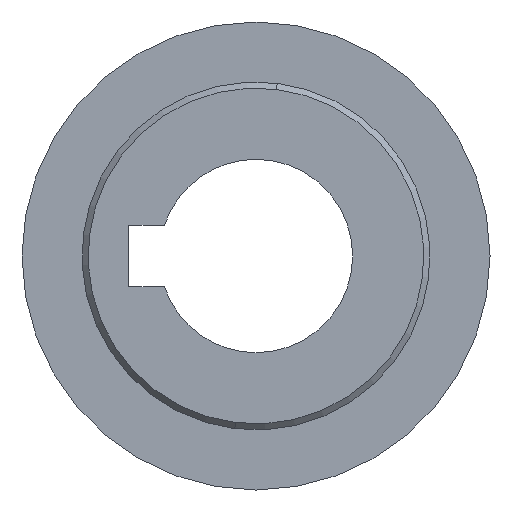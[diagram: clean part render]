
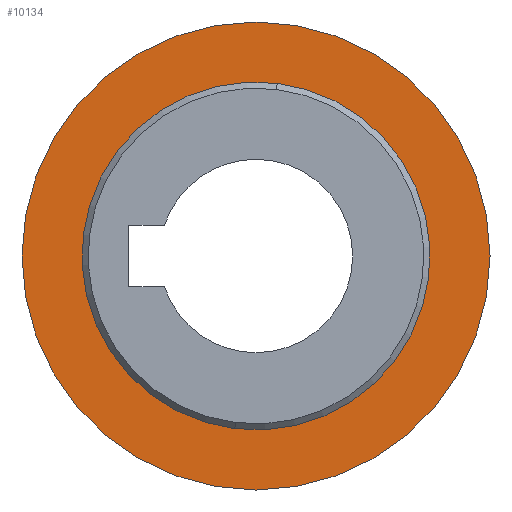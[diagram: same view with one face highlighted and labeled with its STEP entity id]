
A CAD part, left-side view. The second image highlights one B-rep face of the part: STEP entity #10134.
In plain terms, the highlighted planar face has unit normal (-1, 0, 0).
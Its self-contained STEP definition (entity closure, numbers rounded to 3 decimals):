
#15 = EDGE_CURVE ( 'NONE', #16273, #13114, #15308, .T. ) ;
#412 = AXIS2_PLACEMENT_3D ( 'NONE', #6012, #11643, #17635 ) ;
#2187 = CIRCLE ( 'NONE', #412, 23. ) ;
#2269 = PLANE ( 'NONE',  #9536 ) ;
#2454 = CARTESIAN_POINT ( 'NONE',  ( -0.4, 0., 23. ) ) ;
#2554 = DIRECTION ( 'NONE',  ( 0., 0., -1. ) ) ;
#2875 = VERTEX_POINT ( 'NONE', #13377 ) ;
#2884 = CARTESIAN_POINT ( 'NONE',  ( -0.4, 0., 0. ) ) ;
#3190 = CARTESIAN_POINT ( 'NONE',  ( -0.4, 2.084, -16.973 ) ) ;
#4058 = DIRECTION ( 'NONE',  ( 0., 0., -1. ) ) ;
#4354 = DIRECTION ( 'NONE',  ( -1., 0., 0. ) ) ;
#4539 = DIRECTION ( 'NONE',  ( 0., 0., -1. ) ) ;
#5051 = FACE_BOUND ( 'NONE', #15954, .T. ) ;
#6012 = CARTESIAN_POINT ( 'NONE',  ( -0.4, 0., 0. ) ) ;
#6308 = EDGE_LOOP ( 'NONE', ( #8561, #17840 ) ) ;
#6352 = DIRECTION ( 'NONE',  ( 0., 0., -1. ) ) ;
#6825 = VERTEX_POINT ( 'NONE', #2454 ) ;
#7004 = DIRECTION ( 'NONE',  ( -1., 0., 0. ) ) ;
#7191 = EDGE_CURVE ( 'NONE', #13114, #16273, #14283, .T. ) ;
#7279 = EDGE_CURVE ( 'NONE', #6825, #2875, #2187, .T. ) ;
#7645 = EDGE_CURVE ( 'NONE', #2875, #6825, #7769, .T. ) ;
#7769 = CIRCLE ( 'NONE', #12217, 23. ) ;
#8561 = ORIENTED_EDGE ( 'NONE', *, *, #7645, .F. ) ;
#9536 = AXIS2_PLACEMENT_3D ( 'NONE', #17973, #13454, #2554 ) ;
#10134 = ADVANCED_FACE ( 'NONE', ( #5051, #13741 ), #2269, .F. ) ;
#11643 = DIRECTION ( 'NONE',  ( 1., 0., 0. ) ) ;
#12217 = AXIS2_PLACEMENT_3D ( 'NONE', #14474, #16121, #6352 ) ;
#12466 = CARTESIAN_POINT ( 'NONE',  ( -0.4, 0., 0. ) ) ;
#13114 = VERTEX_POINT ( 'NONE', #3190 ) ;
#13377 = CARTESIAN_POINT ( 'NONE',  ( -0.4, 0., -23. ) ) ;
#13454 = DIRECTION ( 'NONE',  ( 1., 0., 0. ) ) ;
#13741 = FACE_OUTER_BOUND ( 'NONE', #6308, .T. ) ;
#13788 = ORIENTED_EDGE ( 'NONE', *, *, #15, .F. ) ;
#13853 = AXIS2_PLACEMENT_3D ( 'NONE', #12466, #7004, #4058 ) ;
#14283 = CIRCLE ( 'NONE', #18122, 17.1 ) ;
#14474 = CARTESIAN_POINT ( 'NONE',  ( -0.4, 0., 0. ) ) ;
#15308 = CIRCLE ( 'NONE', #13853, 17.1 ) ;
#15954 = EDGE_LOOP ( 'NONE', ( #16210, #13788 ) ) ;
#16121 = DIRECTION ( 'NONE',  ( 1., 0., 0. ) ) ;
#16210 = ORIENTED_EDGE ( 'NONE', *, *, #7191, .F. ) ;
#16273 = VERTEX_POINT ( 'NONE', #18245 ) ;
#17635 = DIRECTION ( 'NONE',  ( 0., 0., -1. ) ) ;
#17840 = ORIENTED_EDGE ( 'NONE', *, *, #7279, .F. ) ;
#17973 = CARTESIAN_POINT ( 'NONE',  ( -0.4, 0., 0. ) ) ;
#18122 = AXIS2_PLACEMENT_3D ( 'NONE', #2884, #4354, #4539 ) ;
#18245 = CARTESIAN_POINT ( 'NONE',  ( -0.4, -2.084, 16.973 ) ) ;
